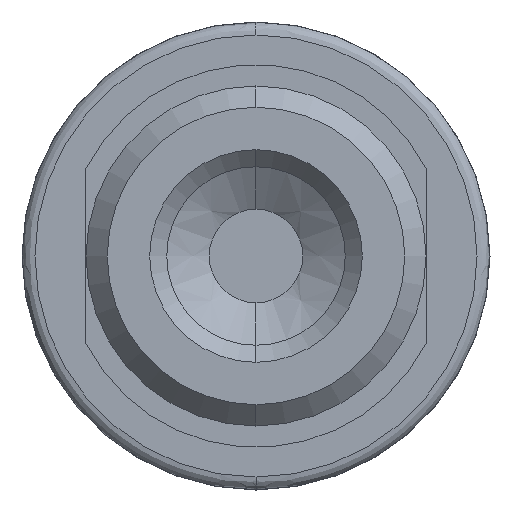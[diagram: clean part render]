
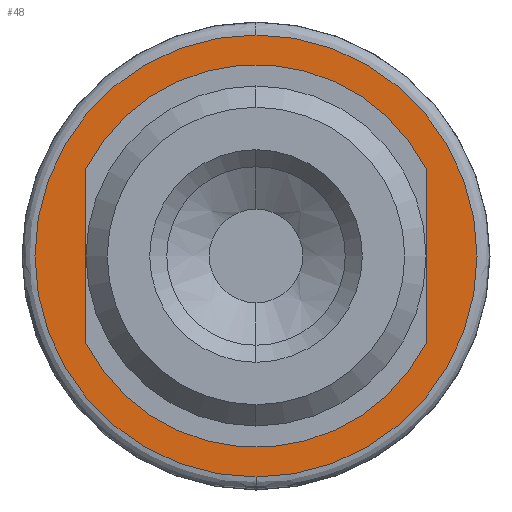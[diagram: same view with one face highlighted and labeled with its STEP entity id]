
A CAD part, left-side view. The second image highlights one B-rep face of the part: STEP entity #48.
In plain terms, the highlighted planar face has unit normal (-1, 0, 0).
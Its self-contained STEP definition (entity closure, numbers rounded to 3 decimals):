
#48=ADVANCED_FACE('',(#170,#171),#169,.T.);
#169=PLANE('',#588);
#170=FACE_OUTER_BOUND('',#589,.T.);
#171=FACE_BOUND('',#590,.T.);
#585=CARTESIAN_POINT('',(-1.,-10.808,-11.96));
#586=DIRECTION('',(-1.,0.,0.));
#587=DIRECTION('',(0.,0.,1.));
#588=AXIS2_PLACEMENT_3D('',#585,#586,#587);
#589=EDGE_LOOP('',(#1011,#1012));
#590=EDGE_LOOP('',(#1013,#1014,#1015,#1016));
#1011=ORIENTED_EDGE('',*,*,#1185,.T.);
#1012=ORIENTED_EDGE('',*,*,#1186,.T.);
#1013=ORIENTED_EDGE('',*,*,#1178,.F.);
#1014=ORIENTED_EDGE('',*,*,#1181,.F.);
#1015=ORIENTED_EDGE('',*,*,#1171,.F.);
#1016=ORIENTED_EDGE('',*,*,#1175,.F.);
#1171=EDGE_CURVE('',#1334,#1335,#1336,.T.);
#1175=EDGE_CURVE('',#1362,#1334,#1363,.T.);
#1178=EDGE_CURVE('',#1382,#1362,#1383,.T.);
#1181=EDGE_CURVE('',#1335,#1382,#1402,.T.);
#1185=EDGE_CURVE('',#1428,#1429,#1430,.T.);
#1186=EDGE_CURVE('',#1429,#1428,#1436,.T.);
#1334=VERTEX_POINT('',#1910);
#1335=VERTEX_POINT('',#1911);
#1336=LINE('',#1912,#1913);
#1362=VERTEX_POINT('',#1926);
#1363=CIRCLE('',#1930,4.5);
#1382=VERTEX_POINT('',#1939);
#1383=LINE('',#1940,#1941);
#1402=CIRCLE('',#1953,4.5);
#1428=VERTEX_POINT('',#1968);
#1429=VERTEX_POINT('',#1969);
#1430=CIRCLE('',#1973,5.2);
#1436=CIRCLE('',#1977,5.2);
#1910=CARTESIAN_POINT('',(-1.,-4.,-2.062));
#1911=CARTESIAN_POINT('',(-1.,-4.,2.062));
#1912=CARTESIAN_POINT('',(-1.,-4.,-2.062));
#1913=VECTOR('',#1914,4.124);
#1914=DIRECTION('',(0.,0.,1.));
#1926=CARTESIAN_POINT('',(-1.,4.,-2.062));
#1927=CARTESIAN_POINT('',(-1.,0.,0.));
#1928=DIRECTION('',(-1.,0.,0.));
#1929=DIRECTION('',(0.,0.889,-0.458));
#1930=AXIS2_PLACEMENT_3D('',#1927,#1928,#1929);
#1939=CARTESIAN_POINT('',(-1.,4.,2.062));
#1940=CARTESIAN_POINT('',(-1.,4.,2.062));
#1941=VECTOR('',#1942,4.124);
#1942=DIRECTION('',(0.,0.,-1.));
#1950=CARTESIAN_POINT('',(-1.,0.,0.));
#1951=DIRECTION('',(-1.,0.,0.));
#1952=DIRECTION('',(0.,0.,-1.));
#1953=AXIS2_PLACEMENT_3D('',#1950,#1951,#1952);
#1968=CARTESIAN_POINT('',(-1.,0.,5.2));
#1969=CARTESIAN_POINT('',(-1.,0.,-5.2));
#1970=CARTESIAN_POINT('',(-1.,0.,0.));
#1971=DIRECTION('',(-1.,0.,0.));
#1972=DIRECTION('',(0.,0.,1.));
#1973=AXIS2_PLACEMENT_3D('',#1970,#1971,#1972);
#1974=CARTESIAN_POINT('',(-1.,0.,0.));
#1975=DIRECTION('',(-1.,0.,0.));
#1976=DIRECTION('',(0.,0.,1.));
#1977=AXIS2_PLACEMENT_3D('',#1974,#1975,#1976);
